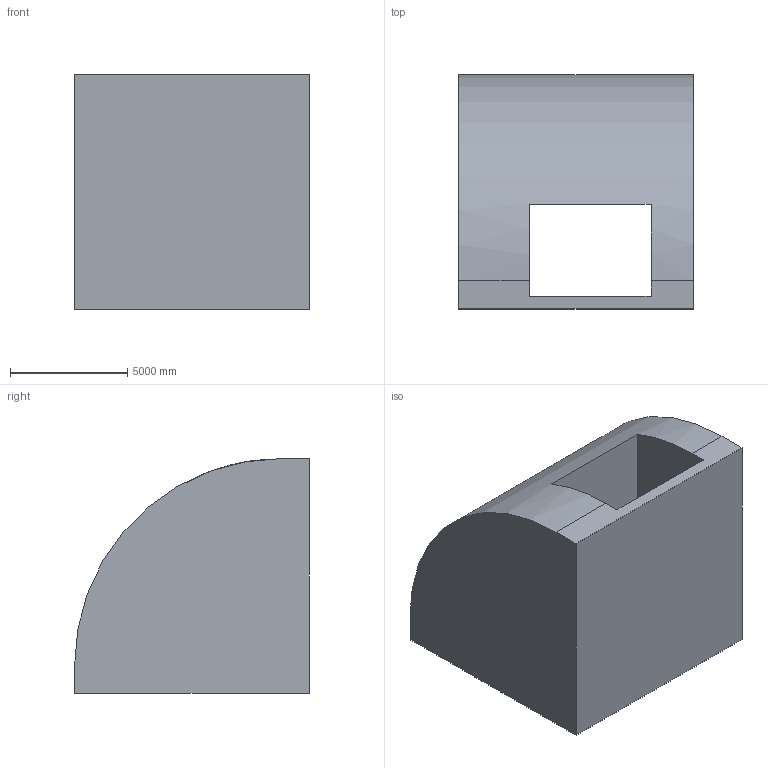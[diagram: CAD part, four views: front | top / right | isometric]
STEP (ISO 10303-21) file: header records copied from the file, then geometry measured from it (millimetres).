
FILE_DESCRIPTION (( 'STEP AP203' ), '1' );
FILE_NAME ('1.STEP', '2022-08-31T14:14:34', ( 'user' ), ( '' ), 'SwSTEP 2.0', 'SolidWorks 2021', '' );
FILE_SCHEMA (( 'CONFIG_CONTROL_DESIGN' ));
Length unit declared in the file: centimetre
Products named in the file (1): 1
Bounding box: 10000 x 10000 x 10000 mm (x, y, z)
Volume: 633529032917.8 mm3; surface area: 665603114.2 mm2
Topology: 1 solids, 1 shells, 11 faces, 30 edges, 20 vertices
Faces by surface type: plane 10, cylinder 1
Entity records: 429 total; most frequent: CARTESIAN_POINT 62, ORIENTED_EDGE 60, DIRECTION 58, EDGE_CURVE 30, VECTOR 26, LINE 26, VERTEX_POINT 20, AXIS2_PLACEMENT_3D 16
